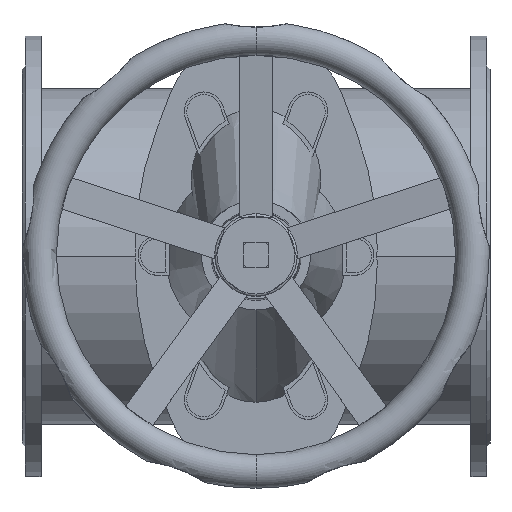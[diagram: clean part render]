
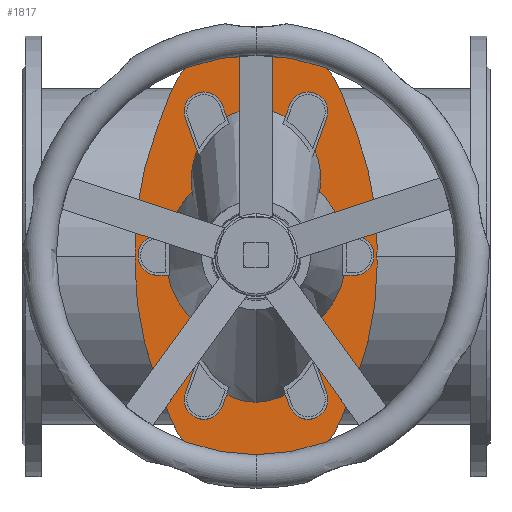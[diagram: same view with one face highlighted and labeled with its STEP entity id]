
A CAD part, top view. The second image highlights one B-rep face of the part: STEP entity #1817.
In plain terms, the highlighted planar face has unit normal (0, 0, 1).
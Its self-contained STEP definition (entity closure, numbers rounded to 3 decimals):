
#1817=ADVANCED_FACE('',(#3631),#3632,.T.);
#3631=FACE_OUTER_BOUND('',#5856,.T.);
#3632=PLANE('',#5857);
#5856=EDGE_LOOP('',(#9456,#9457,#9458,#9459,#9460,#9461,#9462,#9463,#9464,#9465,#9466,#9467,#9468,#9469));
#5857=AXIS2_PLACEMENT_3D('',#9470,#9471,#9472);
#9456=ORIENTED_EDGE('',*,*,#13416,.F.);
#9457=ORIENTED_EDGE('',*,*,#13417,.F.);
#9458=ORIENTED_EDGE('',*,*,#12053,.F.);
#9459=ORIENTED_EDGE('',*,*,#13418,.F.);
#9460=ORIENTED_EDGE('',*,*,#13419,.F.);
#9461=ORIENTED_EDGE('',*,*,#13256,.F.);
#9462=ORIENTED_EDGE('',*,*,#12651,.F.);
#9463=ORIENTED_EDGE('',*,*,#13420,.F.);
#9464=ORIENTED_EDGE('',*,*,#12440,.F.);
#9465=ORIENTED_EDGE('',*,*,#13421,.F.);
#9466=ORIENTED_EDGE('',*,*,#12710,.F.);
#9467=ORIENTED_EDGE('',*,*,#13422,.F.);
#9468=ORIENTED_EDGE('',*,*,#13423,.F.);
#9469=ORIENTED_EDGE('',*,*,#13267,.F.);
#9470=CARTESIAN_POINT('',(300.078,0.,504.0));
#9471=DIRECTION('',(0.0,0.0,1.0));
#9472=DIRECTION('',(1.0,0.0,0.0));
#12053=EDGE_CURVE('',#14103,#14104,#14105,.T.);
#12440=EDGE_CURVE('',#14796,#14797,#14798,.T.);
#12651=EDGE_CURVE('',#15145,#15141,#15147,.T.);
#12710=EDGE_CURVE('',#15234,#15237,#15238,.T.);
#13256=EDGE_CURVE('',#15141,#16049,#16050,.T.);
#13267=EDGE_CURVE('',#16066,#16061,#16068,.T.);
#13416=EDGE_CURVE('',#16275,#16066,#16276,.T.);
#13417=EDGE_CURVE('',#14104,#16275,#16277,.T.);
#13418=EDGE_CURVE('',#16278,#14103,#16279,.T.);
#13419=EDGE_CURVE('',#16049,#16278,#16280,.T.);
#13420=EDGE_CURVE('',#14797,#15145,#16281,.T.);
#13421=EDGE_CURVE('',#15237,#14796,#16282,.T.);
#13422=EDGE_CURVE('',#16283,#15234,#16284,.T.);
#13423=EDGE_CURVE('',#16061,#16283,#16285,.T.);
#14103=VERTEX_POINT('',#17088);
#14104=VERTEX_POINT('',#17089);
#14105=LINE('',#17090,#17091);
#14796=VERTEX_POINT('',#18090);
#14797=VERTEX_POINT('',#18091);
#14798=CIRCLE('',#18092,117.466);
#15141=VERTEX_POINT('',#18527);
#15145=VERTEX_POINT('',#18532);
#15147=CIRCLE('',#18535,408.709);
#15234=VERTEX_POINT('',#18651);
#15237=VERTEX_POINT('',#18655);
#15238=CIRCLE('',#18656,427.473);
#16049=VERTEX_POINT('',#19747);
#16050=CIRCLE('',#19748,408.709);
#16061=VERTEX_POINT('',#19763);
#16066=VERTEX_POINT('',#19769);
#16068=CIRCLE('',#19772,427.473);
#16275=VERTEX_POINT('',#20031);
#16276=LINE('',#20032,#20033);
#16277=CIRCLE('',#20034,117.466);
#16278=VERTEX_POINT('',#20035);
#16279=CIRCLE('',#20036,408.709);
#16280=CIRCLE('',#20037,408.709);
#16281=LINE('',#20038,#20039);
#16282=LINE('',#20040,#20041);
#16283=VERTEX_POINT('',#20042);
#16284=CIRCLE('',#20043,427.473);
#16285=CIRCLE('',#20044,427.473);
#17088=CARTESIAN_POINT('',(428.882,-157.621,504.0));
#17089=CARTESIAN_POINT('',(409.91,-207.883,504.0));
#17090=CARTESIAN_POINT('',(409.91,-207.883,504.0));
#17091=VECTOR('',#21155,1.0);
#18090=CARTESIAN_POINT('',(190.09,207.883,504.0));
#18091=CARTESIAN_POINT('',(409.91,207.883,504.0));
#18092=AXIS2_PLACEMENT_3D('',#21763,#21764,#21765);
#18527=CARTESIAN_POINT('',(455.216,13.287,504.0));
#18532=CARTESIAN_POINT('',(428.882,157.621,504.0));
#18535=AXIS2_PLACEMENT_3D('',#22067,#22068,#22069);
#18651=CARTESIAN_POINT('',(144.881,10.079,504.0));
#18655=CARTESIAN_POINT('',(172.378,160.917,504.0));
#18656=AXIS2_PLACEMENT_3D('',#22133,#22134,#22135);
#19747=CARTESIAN_POINT('',(455.,0.,504.0));
#19748=AXIS2_PLACEMENT_3D('',#22885,#22886,#22887);
#19763=CARTESIAN_POINT('',(144.881,-10.079,504.0));
#19769=CARTESIAN_POINT('',(172.378,-160.917,504.0));
#19772=AXIS2_PLACEMENT_3D('',#22900,#22901,#22902);
#20031=CARTESIAN_POINT('',(190.09,-207.883,504.0));
#20032=CARTESIAN_POINT('',(172.378,-160.917,504.0));
#20033=VECTOR('',#23114,1.0);
#20034=AXIS2_PLACEMENT_3D('',#23115,#23116,#23117);
#20035=CARTESIAN_POINT('',(455.216,-13.287,504.0));
#20036=AXIS2_PLACEMENT_3D('',#23118,#23119,#23120);
#20037=AXIS2_PLACEMENT_3D('',#23121,#23122,#23123);
#20038=CARTESIAN_POINT('',(428.882,157.621,504.0));
#20039=VECTOR('',#23124,1.0);
#20040=CARTESIAN_POINT('',(190.09,207.883,504.0));
#20041=VECTOR('',#23125,1.0);
#20042=CARTESIAN_POINT('',(145.,0.,504.0));
#20043=AXIS2_PLACEMENT_3D('',#23126,#23127,#23128);
#20044=AXIS2_PLACEMENT_3D('',#23129,#23130,#23131);
#21155=DIRECTION('',(-0.353,-0.936,-0.0));
#21763=CARTESIAN_POINT('',(300.,166.434,504.0));
#21764=DIRECTION('',(0.0,0.0,-1.0));
#21765=DIRECTION('',(1.0,0.0,0.0));
#22067=CARTESIAN_POINT('',(46.507,13.287,504.0));
#22068=DIRECTION('',(0.0,0.0,-1.0));
#22069=DIRECTION('',(1.0,0.0,0.0));
#22133=CARTESIAN_POINT('',(572.355,10.079,504.0));
#22134=DIRECTION('',(0.0,0.0,-1.0));
#22135=DIRECTION('',(1.0,0.0,0.0));
#22885=CARTESIAN_POINT('',(46.507,13.287,504.0));
#22886=DIRECTION('',(0.0,0.0,-1.0));
#22887=DIRECTION('',(1.0,0.0,0.0));
#22900=CARTESIAN_POINT('',(572.355,-10.079,504.0));
#22901=DIRECTION('',(0.0,0.0,-1.0));
#22902=DIRECTION('',(1.0,0.0,0.0));
#23114=DIRECTION('',(-0.353,0.936,0.0));
#23115=CARTESIAN_POINT('',(300.,-166.434,504.0));
#23116=DIRECTION('',(0.0,0.0,-1.0));
#23117=DIRECTION('',(1.0,0.0,0.0));
#23118=CARTESIAN_POINT('',(46.507,-13.287,504.0));
#23119=DIRECTION('',(0.0,0.0,-1.0));
#23120=DIRECTION('',(1.0,0.0,0.0));
#23121=CARTESIAN_POINT('',(46.507,-13.287,504.0));
#23122=DIRECTION('',(0.0,0.0,-1.0));
#23123=DIRECTION('',(1.0,0.0,0.0));
#23124=DIRECTION('',(0.353,-0.936,0.0));
#23125=DIRECTION('',(0.353,0.936,0.0));
#23126=CARTESIAN_POINT('',(572.355,10.079,504.0));
#23127=DIRECTION('',(0.0,0.0,-1.0));
#23128=DIRECTION('',(1.0,0.0,0.0));
#23129=CARTESIAN_POINT('',(572.355,-10.079,504.0));
#23130=DIRECTION('',(0.0,0.0,-1.0));
#23131=DIRECTION('',(1.0,0.0,0.0));
